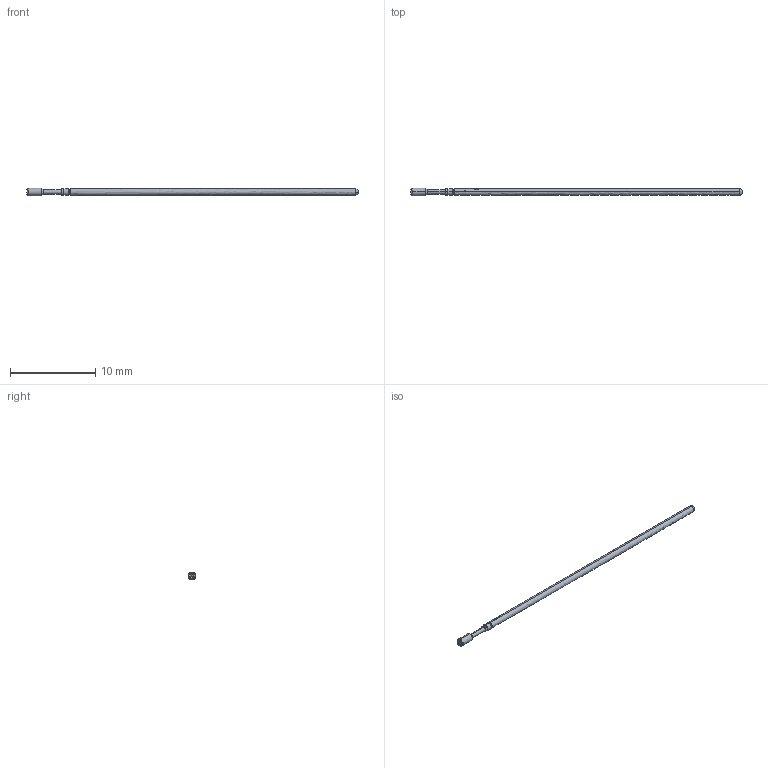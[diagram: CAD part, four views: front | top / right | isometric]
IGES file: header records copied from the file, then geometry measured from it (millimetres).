
Start section: SolidWorks IGES file using analytic representation for surfaces
Global section: file name: L:\probe solid model mockups\Solidworks models\POGO-72H RECD.IGS; native system: SolidWorks 2006 by SolidWorks Corporation; preprocessor: SolidWorks 2006 by SolidWorks Corporation; author: Ksnyder; date: 071211.135702; units: inch
Bounding box: 38.94 x 0.89 x 0.89 mm (x, y, z)
Volume: 29.2 mm3; surface area: 178.7 mm2
Topology: 1 solids, 1 shells, 50 faces, 100 edges, 51 vertices
Faces by surface type: plane 30, revolution 20
